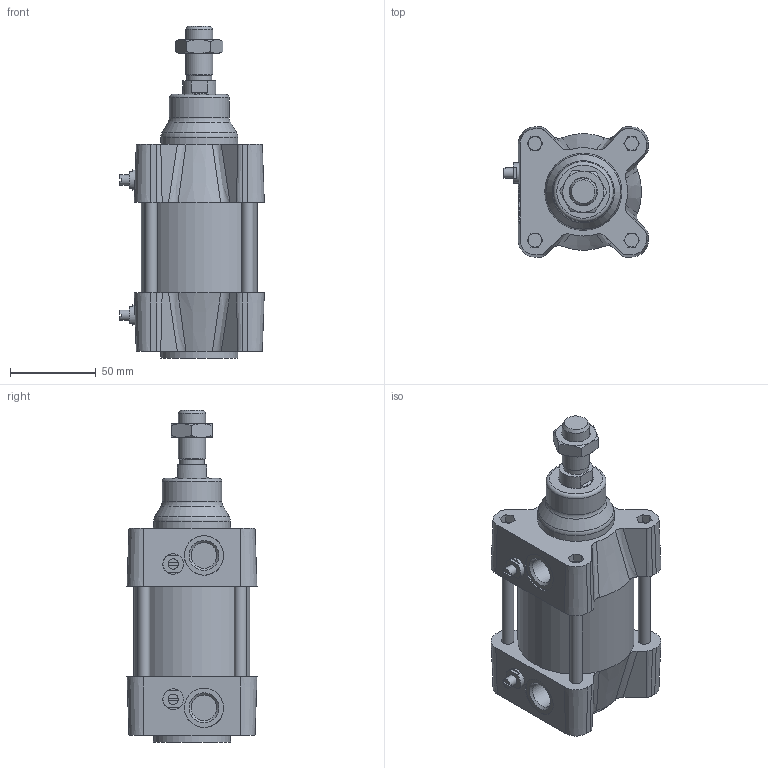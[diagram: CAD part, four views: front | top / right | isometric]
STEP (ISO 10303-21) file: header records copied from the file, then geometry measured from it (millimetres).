
FILE_DESCRIPTION(/* description */ (''),/* implementation_level */ '2;1');
FILE_NAME(/* name */ 'I:\Area Tecnica\Disegni\VARIE-3D\Componenti\1393-1394\139#_Ø_####_01\1393_063_0000_01.stp',/* time_stamp */ '2015-11-30T14:54:04+01:00',/* author */ ('maniean1'),/* organization */ ('Pneumax S.p.A.'),/* preprocessor_version */ 'ST-DEVELOPER v15.2',/* originating_system */ 'Autodesk Inventor 2014',/* authorisation */ '');
FILE_SCHEMA (('AUTOMOTIVE_DESIGN { 1 0 10303 214 3 1 1 }'));
Length unit declared in the file: millimetre
Products named in the file (4): 139#_063_0000_01-CIL; 139#_063_0000_01_ST; 1393_63_18F; 1393_063_0000_01
Bounding box: 84.5 x 76 x 194 mm (x, y, z)
Volume: 550841.7 mm3; surface area: 100941.9 mm2
Topology: 3 solids, 5 shells, 233 faces, 548 edges, 347 vertices
Faces by surface type: plane 138, cone 46, cylinder 34, bspline 12, torus 3
Full cylindrical faces by diameter (mm): 6 x4, 7.1 x4, 8 x8, 12 x2, 14.5 x2, 14.9 x2, 16 x1, 19.5 x1, 20 x2, 23 x2, 35 x1, 45 x2, 63 x2, 68 x1
Entity records: 6811 total; most frequent: CARTESIAN_POINT 1690, DIRECTION 1048, ORIENTED_EDGE 970, EDGE_CURVE 485, AXIS2_PLACEMENT_3D 407, VERTEX_POINT 329, EDGE_LOOP 310, LINE 234
